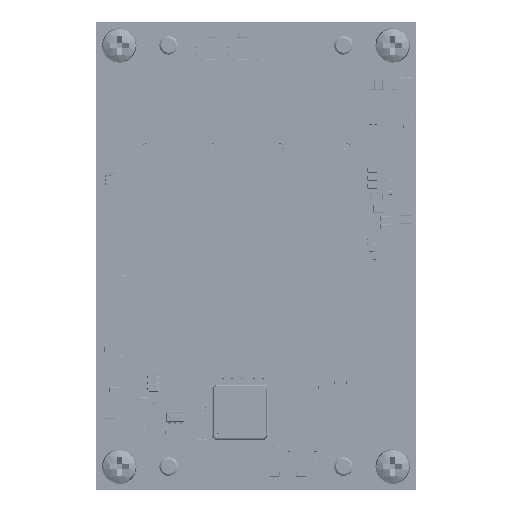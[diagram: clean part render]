
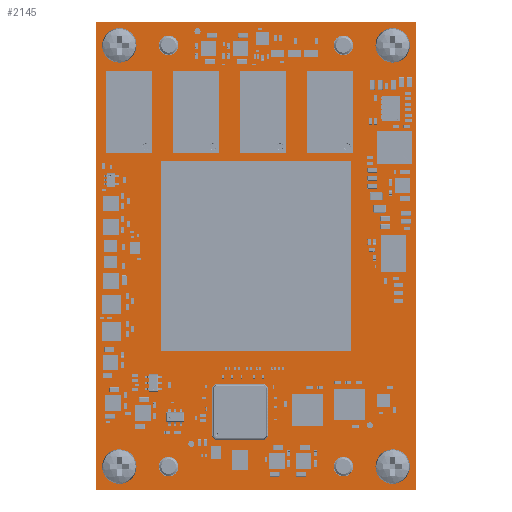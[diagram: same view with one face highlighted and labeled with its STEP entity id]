
A CAD part, top view. The second image highlights one B-rep face of the part: STEP entity #2145.
In plain terms, the highlighted planar face has unit normal (0, 0, 1).
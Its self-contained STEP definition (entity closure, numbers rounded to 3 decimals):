
#1728 = VERTEX_POINT('',#1729);
#1729 = CARTESIAN_POINT('',(0.,0.,1.7));
#1735 = EDGE_CURVE('',#1728,#1736,#1738,.T.);
#1736 = VERTEX_POINT('',#1737);
#1737 = CARTESIAN_POINT('',(52.,0.,1.7));
#1738 = LINE('',#1739,#1740);
#1739 = CARTESIAN_POINT('',(0.,0.,1.7));
#1740 = VECTOR('',#1741,1.);
#1741 = DIRECTION('',(1.,0.,0.));
#1766 = EDGE_CURVE('',#1736,#1767,#1769,.T.);
#1767 = VERTEX_POINT('',#1768);
#1768 = CARTESIAN_POINT('',(52.,76.,1.7));
#1769 = LINE('',#1770,#1771);
#1770 = CARTESIAN_POINT('',(52.,0.,1.7));
#1771 = VECTOR('',#1772,1.);
#1772 = DIRECTION('',(0.,1.,0.));
#1797 = EDGE_CURVE('',#1767,#1798,#1800,.T.);
#1798 = VERTEX_POINT('',#1799);
#1799 = CARTESIAN_POINT('',(0.,76.,1.7));
#1800 = LINE('',#1801,#1802);
#1801 = CARTESIAN_POINT('',(52.,76.,1.7));
#1802 = VECTOR('',#1803,1.);
#1803 = DIRECTION('',(-1.,0.,0.));
#1828 = EDGE_CURVE('',#1798,#1728,#1829,.T.);
#1829 = LINE('',#1830,#1831);
#1830 = CARTESIAN_POINT('',(0.,76.,1.7));
#1831 = VECTOR('',#1832,1.);
#1832 = DIRECTION('',(0.,-1.,0.));
#1852 = VERTEX_POINT('',#1853);
#1853 = CARTESIAN_POINT('',(5.4,3.8,1.7));
#1859 = EDGE_CURVE('',#1852,#1852,#1860,.T.);
#1860 = CIRCLE('',#1861,1.6);
#1861 = AXIS2_PLACEMENT_3D('',#1862,#1863,#1864);
#1862 = CARTESIAN_POINT('',(3.8,3.8,1.7));
#1863 = DIRECTION('',(0.,0.,1.));
#1864 = DIRECTION('',(1.,0.,-0.));
#1885 = VERTEX_POINT('',#1886);
#1886 = CARTESIAN_POINT('',(13.4,3.8,1.7));
#1892 = EDGE_CURVE('',#1885,#1885,#1893,.T.);
#1893 = CIRCLE('',#1894,1.6);
#1894 = AXIS2_PLACEMENT_3D('',#1895,#1896,#1897);
#1895 = CARTESIAN_POINT('',(11.8,3.8,1.7));
#1896 = DIRECTION('',(0.,0.,1.));
#1897 = DIRECTION('',(1.,0.,-0.));
#1918 = VERTEX_POINT('',#1919);
#1919 = CARTESIAN_POINT('',(5.4,72.2,1.7));
#1925 = EDGE_CURVE('',#1918,#1918,#1926,.T.);
#1926 = CIRCLE('',#1927,1.6);
#1927 = AXIS2_PLACEMENT_3D('',#1928,#1929,#1930);
#1928 = CARTESIAN_POINT('',(3.8,72.2,1.7));
#1929 = DIRECTION('',(0.,0.,1.));
#1930 = DIRECTION('',(1.,0.,-0.));
#1951 = VERTEX_POINT('',#1952);
#1952 = CARTESIAN_POINT('',(13.4,72.2,1.7));
#1958 = EDGE_CURVE('',#1951,#1951,#1959,.T.);
#1959 = CIRCLE('',#1960,1.6);
#1960 = AXIS2_PLACEMENT_3D('',#1961,#1962,#1963);
#1961 = CARTESIAN_POINT('',(11.8,72.2,1.7));
#1962 = DIRECTION('',(0.,0.,1.));
#1963 = DIRECTION('',(1.,0.,-0.));
#1984 = VERTEX_POINT('',#1985);
#1985 = CARTESIAN_POINT('',(41.8,3.8,1.7));
#1991 = EDGE_CURVE('',#1984,#1984,#1992,.T.);
#1992 = CIRCLE('',#1993,1.6);
#1993 = AXIS2_PLACEMENT_3D('',#1994,#1995,#1996);
#1994 = CARTESIAN_POINT('',(40.2,3.8,1.7));
#1995 = DIRECTION('',(0.,0.,1.));
#1996 = DIRECTION('',(1.,0.,-0.));
#2017 = VERTEX_POINT('',#2018);
#2018 = CARTESIAN_POINT('',(49.8,3.8,1.7));
#2024 = EDGE_CURVE('',#2017,#2017,#2025,.T.);
#2025 = CIRCLE('',#2026,1.6);
#2026 = AXIS2_PLACEMENT_3D('',#2027,#2028,#2029);
#2027 = CARTESIAN_POINT('',(48.2,3.8,1.7));
#2028 = DIRECTION('',(0.,0.,1.));
#2029 = DIRECTION('',(1.,0.,-0.));
#2050 = VERTEX_POINT('',#2051);
#2051 = CARTESIAN_POINT('',(41.8,72.2,1.7));
#2057 = EDGE_CURVE('',#2050,#2050,#2058,.T.);
#2058 = CIRCLE('',#2059,1.6);
#2059 = AXIS2_PLACEMENT_3D('',#2060,#2061,#2062);
#2060 = CARTESIAN_POINT('',(40.2,72.2,1.7));
#2061 = DIRECTION('',(0.,0.,1.));
#2062 = DIRECTION('',(1.,0.,-0.));
#2083 = VERTEX_POINT('',#2084);
#2084 = CARTESIAN_POINT('',(49.8,72.2,1.7));
#2090 = EDGE_CURVE('',#2083,#2083,#2091,.T.);
#2091 = CIRCLE('',#2092,1.6);
#2092 = AXIS2_PLACEMENT_3D('',#2093,#2094,#2095);
#2093 = CARTESIAN_POINT('',(48.2,72.2,1.7));
#2094 = DIRECTION('',(0.,0.,1.));
#2095 = DIRECTION('',(1.,0.,-0.));
#2145 = ADVANCED_FACE('',(#2146,#2152,#2155,#2158,#2161,#2164,#2167,
    #2170,#2173),#2176,.T.);
#2146 = FACE_BOUND('',#2147,.T.);
#2147 = EDGE_LOOP('',(#2148,#2149,#2150,#2151));
#2148 = ORIENTED_EDGE('',*,*,#1735,.T.);
#2149 = ORIENTED_EDGE('',*,*,#1766,.T.);
#2150 = ORIENTED_EDGE('',*,*,#1797,.T.);
#2151 = ORIENTED_EDGE('',*,*,#1828,.T.);
#2152 = FACE_BOUND('',#2153,.T.);
#2153 = EDGE_LOOP('',(#2154));
#2154 = ORIENTED_EDGE('',*,*,#1859,.F.);
#2155 = FACE_BOUND('',#2156,.T.);
#2156 = EDGE_LOOP('',(#2157));
#2157 = ORIENTED_EDGE('',*,*,#1892,.F.);
#2158 = FACE_BOUND('',#2159,.T.);
#2159 = EDGE_LOOP('',(#2160));
#2160 = ORIENTED_EDGE('',*,*,#1925,.F.);
#2161 = FACE_BOUND('',#2162,.T.);
#2162 = EDGE_LOOP('',(#2163));
#2163 = ORIENTED_EDGE('',*,*,#1958,.F.);
#2164 = FACE_BOUND('',#2165,.T.);
#2165 = EDGE_LOOP('',(#2166));
#2166 = ORIENTED_EDGE('',*,*,#1991,.F.);
#2167 = FACE_BOUND('',#2168,.T.);
#2168 = EDGE_LOOP('',(#2169));
#2169 = ORIENTED_EDGE('',*,*,#2024,.F.);
#2170 = FACE_BOUND('',#2171,.T.);
#2171 = EDGE_LOOP('',(#2172));
#2172 = ORIENTED_EDGE('',*,*,#2057,.F.);
#2173 = FACE_BOUND('',#2174,.T.);
#2174 = EDGE_LOOP('',(#2175));
#2175 = ORIENTED_EDGE('',*,*,#2090,.F.);
#2176 = PLANE('',#2177);
#2177 = AXIS2_PLACEMENT_3D('',#2178,#2179,#2180);
#2178 = CARTESIAN_POINT('',(26.,38.,1.7));
#2179 = DIRECTION('',(0.,0.,1.));
#2180 = DIRECTION('',(1.,0.,-0.));
